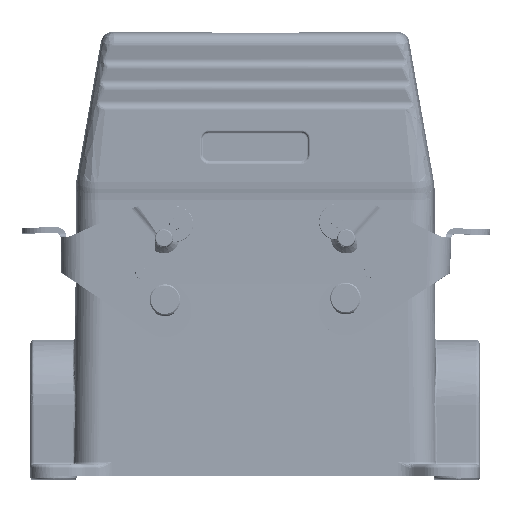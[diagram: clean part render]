
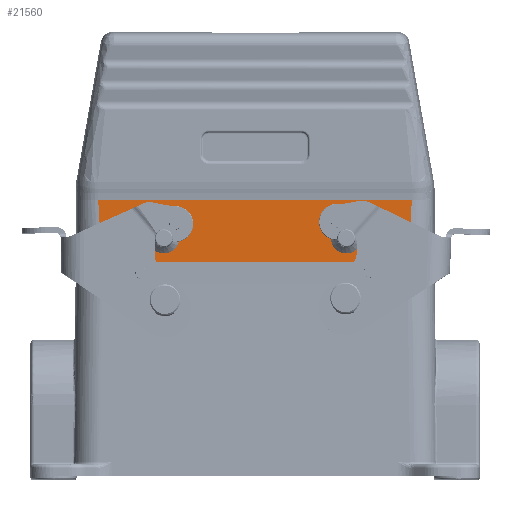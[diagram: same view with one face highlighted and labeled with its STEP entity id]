
A CAD part, top view. The second image highlights one B-rep face of the part: STEP entity #21560.
In plain terms, the highlighted planar face has unit normal (0, 0, 1) as drawn and (0, -1, 0) by its records, which use the part's own axes.
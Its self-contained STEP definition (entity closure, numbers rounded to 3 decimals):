
#151 = VERTEX_POINT ( 'NONE', #288331 ) ;
#4462 = CARTESIAN_POINT ( 'NONE',  ( -73.25, -21.5, 0. ) ) ;
#10495 = DIRECTION ( 'NONE',  ( 0., 1., 0. ) ) ;
#12176 = CARTESIAN_POINT ( 'NONE',  ( -40.815, -21.5, 15.576 ) ) ;
#15635 = CARTESIAN_POINT ( 'NONE',  ( -13.25, -21.5, 0. ) ) ;
#21560 = ADVANCED_FACE ( 'NONE', ( #201547, #81241, #198313 ), #273702, .T. ) ;
#23121 = CARTESIAN_POINT ( 'NONE',  ( -40.42, -21.5, 8.154 ) ) ;
#23270 = EDGE_LOOP ( 'NONE', ( #295141, #224458 ) ) ;
#26306 = ORIENTED_EDGE ( 'NONE', *, *, #213025, .T. ) ;
#33080 = DIRECTION ( 'NONE',  ( 0., 1., 0. ) ) ;
#33784 = CARTESIAN_POINT ( 'NONE',  ( 39.889, -21.5, 0. ) ) ;
#34327 = VERTEX_POINT ( 'NONE', #303062 ) ;
#37715 = CARTESIAN_POINT ( 'NONE',  ( -40.669, -21.5, 12.497 ) ) ;
#42405 = CARTESIAN_POINT ( 'NONE',  ( -40.44, -21.5, 8.473 ) ) ;
#42540 = VERTEX_POINT ( 'NONE', #92814 ) ;
#45329 = AXIS2_PLACEMENT_3D ( 'NONE', #272718, #70719, #266371 ) ;
#49966 = ORIENTED_EDGE ( 'NONE', *, *, #167310, .T. ) ;
#50106 = B_SPLINE_CURVE_WITH_KNOTS ( 'NONE', 3,
 ( #58545, #12176, #159401, #257376, #160997, #37715, #186659, #154724, #254205, #252649, #132262, #230103, #206050, #164156, #42405, #236391, #262098, #138506, #287644, #23121, #93604, #67985, #120784, #316430, #64855, #116106, #92047, #212339, #218579, #96735, #140101, #194541, #313286, #311725 ),
 .UNSPECIFIED., .F., .F.,
 ( 4, 1, 1, 1, 1, 1, 2, 2, 1, 1, 1, 1, 1, 1, 1, 2, 2, 1, 1, 1, 1, 1, 1, 2, 2, 4 ),
 ( 0., 0.125, 0.188, 0.219, 0.234, 0.242, 0.246, 0.25, 0.375, 0.438, 0.469, 0.484, 0.492, 0.496, 0.498, 0.499, 0.5, 0.625, 0.688, 0.719, 0.734, 0.742, 0.746, 0.748, 0.75, 1. ),
 .UNSPECIFIED. ) ;
#57778 = CARTESIAN_POINT ( 'NONE',  ( 40.377, -21.5, 7.314 ) ) ;
#58545 = CARTESIAN_POINT ( 'NONE',  ( -40.845, -21.5, 16.289 ) ) ;
#61920 = ORIENTED_EDGE ( 'NONE', *, *, #309984, .T. ) ;
#64855 = CARTESIAN_POINT ( 'NONE',  ( -40.206, -21.5, 4.795 ) ) ;
#67985 = CARTESIAN_POINT ( 'NONE',  ( -40.387, -21.5, 7.634 ) ) ;
#70719 = DIRECTION ( 'NONE',  ( 0., 1., 0. ) ) ;
#71407 = CARTESIAN_POINT ( 'NONE',  ( 23.75, -21.5, 10.3 ) ) ;
#73591 = CARTESIAN_POINT ( 'NONE',  ( 23.75, -21.5, 6.3 ) ) ;
#78689 = CARTESIAN_POINT ( 'NONE',  ( 40.706, -21.5, 12.744 ) ) ;
#78813 = CIRCLE ( 'NONE', #114723, 4. ) ;
#79715 = CARTESIAN_POINT ( 'NONE',  ( -40.845, -21.5, 16.289 ) ) ;
#80487 = ORIENTED_EDGE ( 'NONE', *, *, #94051, .T. ) ;
#81241 = FACE_BOUND ( 'NONE', #23270, .T. ) ;
#82680 = CARTESIAN_POINT ( 'NONE',  ( 23.75, -21.5, 2.3 ) ) ;
#83568 = EDGE_CURVE ( 'NONE', #202428, #147024, #244362, .T. ) ;
#90837 = AXIS2_PLACEMENT_3D ( 'NONE', #180274, #10495, #305371 ) ;
#92047 = CARTESIAN_POINT ( 'NONE',  ( -40.171, -21.5, 4.255 ) ) ;
#92814 = CARTESIAN_POINT ( 'NONE',  ( 39.889, -21.5, 0. ) ) ;
#93604 = CARTESIAN_POINT ( 'NONE',  ( -40.419, -21.5, 8.146 ) ) ;
#94051 = EDGE_CURVE ( 'NONE', #147024, #202428, #94381, .T. ) ;
#94381 = CIRCLE ( 'NONE', #288927, 4. ) ;
#96735 = CARTESIAN_POINT ( 'NONE',  ( -40.161, -21.5, 4.097 ) ) ;
#114723 = AXIS2_PLACEMENT_3D ( 'NONE', #73591, #275555, #270802 ) ;
#114970 = CARTESIAN_POINT ( 'NONE',  ( -23.75, -21.5, 2.3 ) ) ;
#116106 = CARTESIAN_POINT ( 'NONE',  ( -40.183, -21.5, 4.437 ) ) ;
#120784 = CARTESIAN_POINT ( 'NONE',  ( -40.331, -21.5, 6.744 ) ) ;
#129756 = EDGE_LOOP ( 'NONE', ( #49966, #61920, #147690, #26306 ) ) ;
#130906 = DIRECTION ( 'NONE',  ( 0., 0., -1. ) ) ;
#132262 = CARTESIAN_POINT ( 'NONE',  ( -40.623, -21.5, 11.618 ) ) ;
#138506 = CARTESIAN_POINT ( 'NONE',  ( -40.422, -21.5, 8.183 ) ) ;
#140101 = CARTESIAN_POINT ( 'NONE',  ( -40.16, -21.5, 4.082 ) ) ;
#140347 = EDGE_CURVE ( 'NONE', #273680, #200375, #78813, .T. ) ;
#147024 = VERTEX_POINT ( 'NONE', #152537 ) ;
#147690 = ORIENTED_EDGE ( 'NONE', *, *, #300521, .F. ) ;
#152537 = CARTESIAN_POINT ( 'NONE',  ( -23.75, -21.5, 10.3 ) ) ;
#154724 = CARTESIAN_POINT ( 'NONE',  ( -40.659, -21.5, 12.295 ) ) ;
#156392 = CARTESIAN_POINT ( 'NONE',  ( -23.75, -21.5, 6.3 ) ) ;
#157088 = CARTESIAN_POINT ( 'NONE',  ( 40.845, -21.5, 16.289 ) ) ;
#159401 = CARTESIAN_POINT ( 'NONE',  ( -40.769, -21.5, 14.531 ) ) ;
#160997 = CARTESIAN_POINT ( 'NONE',  ( -40.684, -21.5, 12.782 ) ) ;
#164156 = CARTESIAN_POINT ( 'NONE',  ( -40.46, -21.5, 8.799 ) ) ;
#167310 = EDGE_CURVE ( 'NONE', #292735, #34327, #50106, .T. ) ;
#173281 = AXIS2_PLACEMENT_3D ( 'NONE', #4462, #251257, #130906 ) ;
#174273 = DIRECTION ( 'NONE',  ( -1., 0., 0. ) ) ;
#180274 = CARTESIAN_POINT ( 'NONE',  ( -23.75, -21.5, 6.3 ) ) ;
#181630 = ORIENTED_EDGE ( 'NONE', *, *, #83568, .T. ) ;
#186659 = CARTESIAN_POINT ( 'NONE',  ( -40.662, -21.5, 12.356 ) ) ;
#190159 = LINE ( 'NONE', #15635, #277340 ) ;
#194541 = CARTESIAN_POINT ( 'NONE',  ( -40.06, -21.5, 2.546 ) ) ;
#198313 = FACE_BOUND ( 'NONE', #217095, .T. ) ;
#200375 = VERTEX_POINT ( 'NONE', #71407 ) ;
#201547 = FACE_OUTER_BOUND ( 'NONE', #129756, .T. ) ;
#202428 = VERTEX_POINT ( 'NONE', #114970 ) ;
#206050 = CARTESIAN_POINT ( 'NONE',  ( -40.498, -21.5, 9.438 ) ) ;
#212339 = CARTESIAN_POINT ( 'NONE',  ( -40.165, -21.5, 4.163 ) ) ;
#212674 = DIRECTION ( 'NONE',  ( 1., 0., 0. ) ) ;
#213025 = EDGE_CURVE ( 'NONE', #151, #292735, #273751, .T. ) ;
#214252 = CIRCLE ( 'NONE', #45329, 4. ) ;
#217095 = EDGE_LOOP ( 'NONE', ( #80487, #181630 ) ) ;
#218579 = CARTESIAN_POINT ( 'NONE',  ( -40.163, -21.5, 4.123 ) ) ;
#223866 = DIRECTION ( 'NONE',  ( 0., 0., 1. ) ) ;
#224458 = ORIENTED_EDGE ( 'NONE', *, *, #140347, .T. ) ;
#230103 = CARTESIAN_POINT ( 'NONE',  ( -40.571, -21.5, 10.662 ) ) ;
#236391 = CARTESIAN_POINT ( 'NONE',  ( -40.429, -21.5, 8.308 ) ) ;
#244362 = CIRCLE ( 'NONE', #90837, 4. ) ;
#245717 = B_SPLINE_CURVE_WITH_KNOTS ( 'NONE', 3,
 ( #157088, #78689, #57778, #279029, #33784 ),
 .UNSPECIFIED., .F., .F.,
 ( 4, 1, 4 ),
 ( 0., 0.652, 1. ),
 .UNSPECIFIED. ) ;
#249855 = VECTOR ( 'NONE', #174273, 1000. ) ;
#251257 = DIRECTION ( 'NONE',  ( 0., -1., 0. ) ) ;
#252649 = CARTESIAN_POINT ( 'NONE',  ( -40.656, -21.5, 12.233 ) ) ;
#254205 = CARTESIAN_POINT ( 'NONE',  ( -40.657, -21.5, 12.255 ) ) ;
#257376 = CARTESIAN_POINT ( 'NONE',  ( -40.713, -21.5, 13.357 ) ) ;
#262098 = CARTESIAN_POINT ( 'NONE',  ( -40.424, -21.5, 8.225 ) ) ;
#266371 = DIRECTION ( 'NONE',  ( 0., 0., 1. ) ) ;
#270802 = DIRECTION ( 'NONE',  ( 0., 0., 1. ) ) ;
#272718 = CARTESIAN_POINT ( 'NONE',  ( 23.75, -21.5, 6.3 ) ) ;
#273680 = VERTEX_POINT ( 'NONE', #82680 ) ;
#273702 = PLANE ( 'NONE',  #173281 ) ;
#273751 = LINE ( 'NONE', #275327, #249855 ) ;
#275327 = CARTESIAN_POINT ( 'NONE',  ( -73.25, -21.5, 16.289 ) ) ;
#275555 = DIRECTION ( 'NONE',  ( 0., 1., 0. ) ) ;
#277340 = VECTOR ( 'NONE', #212674, 1000. ) ;
#279029 = CARTESIAN_POINT ( 'NONE',  ( 40.012, -21.5, 1.888 ) ) ;
#287644 = CARTESIAN_POINT ( 'NONE',  ( -40.421, -21.5, 8.166 ) ) ;
#288331 = CARTESIAN_POINT ( 'NONE',  ( 40.845, -21.5, 16.289 ) ) ;
#288927 = AXIS2_PLACEMENT_3D ( 'NONE', #156392, #33080, #223866 ) ;
#292735 = VERTEX_POINT ( 'NONE', #79715 ) ;
#295141 = ORIENTED_EDGE ( 'NONE', *, *, #300375, .T. ) ;
#300375 = EDGE_CURVE ( 'NONE', #200375, #273680, #214252, .T. ) ;
#300521 = EDGE_CURVE ( 'NONE', #151, #42540, #245717, .T. ) ;
#303062 = CARTESIAN_POINT ( 'NONE',  ( -39.889, -21.5, 0. ) ) ;
#305371 = DIRECTION ( 'NONE',  ( 0., 0., 1. ) ) ;
#309984 = EDGE_CURVE ( 'NONE', #34327, #42540, #190159, .T. ) ;
#311725 = CARTESIAN_POINT ( 'NONE',  ( -39.889, -21.5, 0. ) ) ;
#313286 = CARTESIAN_POINT ( 'NONE',  ( -39.97, -21.5, 1.189 ) ) ;
#316430 = CARTESIAN_POINT ( 'NONE',  ( -40.25, -21.5, 5.482 ) ) ;
